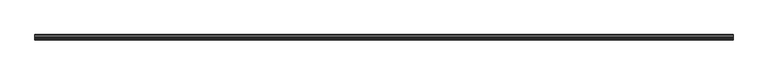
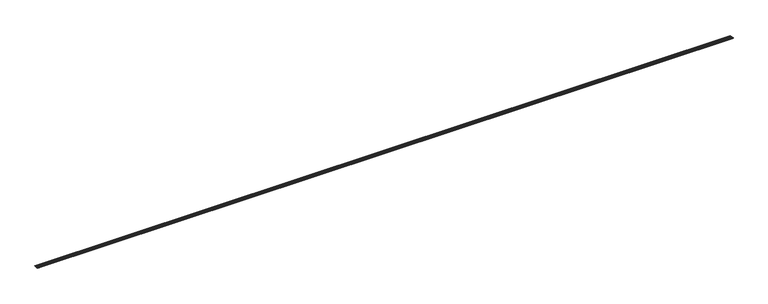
"""IFC4 building model written with IfcOpenShell, lengths in millimetres: proxy geometry, Weiku - Montante - Batente Titantec 02.3.02.040 : Weiku - Montante - Batente Titantec 02.3.02.040."""

from ifc_helpers import new_model, si_unit, point, frame, frame_2d, origin, place, context, project, spatial, polyline, circle_curve, trimmed, segment, composite_curve, outline, extrude, source, transform, mapped, element, save


def generic_models_5109ebb3(model_context):
    return source(origin(), model_context, "Body", "SweptSolid", [
        extrude(outline(composite_curve([segment(polyline([(-22.2, 5.4999971), (-17.2210117, 5.0020982)]), True, "CONTINUOUS"), segment(trimmed(circle_curve(frame_2d((-17.280714, 4.4050759)), 0.6), [point((-17.2210117, 5.0020982))], [point((-16.6912336, 4.2932147))], False, "CARTESIAN"), True, "CONTINUOUS"), segment(trimmed(circle_curve(frame_2d((-16.2, 4.1999971)), 0.5), [point((-16.6912336, 4.2932147))], [point((-16.0863636, 3.7130815))], True, "CARTESIAN"), True, "CONTINUOUS"), segment(trimmed(circle_curve(frame_2d((-15.95, 3.1287828)), 0.6), [point((-16.0863636, 3.7130815))], [point((-15.35, 3.1287828))], False, "CARTESIAN"), True, "CONTINUOUS"), segment(polyline([(-15.35, 3.1287828), (-15.35, 2.2999971), (-16.5, 2.2999971), (-16.5, 1.1999971), (-11.0, 1.1999971), (-11.0, 2.2999971), (-12.15, 2.2999971), (-12.15, 3.0999971)]), True, "CONTINUOUS"), segment(trimmed(circle_curve(frame_2d((-11.55, 3.0999971)), 0.6), [point((-12.15, 3.0999971))], [point((-11.55, 3.6999971))], False, "CARTESIAN"), True, "CONTINUOUS"), segment(polyline([(-11.55, 3.6999971), (-10.5, 3.6999971)]), True, "CONTINUOUS"), segment(trimmed(circle_curve(frame_2d((-10.5, 3.1999971)), 0.5), [point((-10.5, 3.6999971))], [point((-10.0, 3.1999971))], False, "CARTESIAN"), True, "CONTINUOUS"), segment(polyline([(-10.0, 3.1999971), (-10.0, 1.7999971)]), True, "CONTINUOUS"), segment(trimmed(circle_curve(frame_2d((-9.4, 1.7999971)), 0.6), [point((-10.0, 1.7999971))], [point((-9.4, 1.1999971))], True, "CARTESIAN"), True, "CONTINUOUS"), segment(polyline([(-9.4, 1.1999971), (-1.2, 1.1999971)]), True, "CONTINUOUS"), segment(trimmed(circle_curve(frame_2d((-1.2, -2.9e-06)), 1.2), [point((-1.2, 1.1999971))], [point((0.0, -2.9e-06))], False, "CARTESIAN"), True, "CONTINUOUS"), segment(polyline([(0.0, -2.9e-06), (-17.7, -2.9e-06), (-17.7, 4.0499971), (-22.2, 4.4999971)]), True, "CONTINUOUS"), segment(trimmed(circle_curve(frame_2d((-22.2, 4.9999971)), 0.5), [point((-22.2, 4.4999971))], [point((-22.2, 5.4999971))], False, "CARTESIAN"), True, "CONTINUOUS")], self_intersect=False)), frame((-1454.9, 0.0, 0.0), z_axis=(1.0, 0.0, 0.0), x_axis=(0.0, 1.0, 0.0)), (0.0, 0.0, 1.0), 2909.8),
    ])


if __name__ == "__main__":
    model = new_model("IFC4")
    model_context = context("Model", 3, world=origin())
    ifc_project = project(units=[si_unit("LENGTHUNIT", "METRE", prefix="MILLI")], contexts=[model_context])
    site = spatial("IfcSite", under=ifc_project)
    building = spatial("IfcBuilding", under=site)
    placement = place(None, origin())
    generic_models_shape = generic_models_5109ebb3(model_context)
    element("IfcBuildingElementProxy", 1, Name="Weiku - Montante - Batente Titantec 02.3.02.040 : Weiku - Montante - Batente Titantec 02.3.02.040", ObjectType="Weiku - Montante - Batente Titantec 02.3.02.040 : Weiku - Montante - Batente Titantec 02.3.02.040", at=placement, inside=building, context=model_context, shape_type="MappedRepresentation", body=[
        mapped(generic_models_shape, transform((0.0, 0.0, 0.0), x_axis=(1.0, 0.0, 0.0), y_axis=(0.0, 1.0, 0.0), z_axis=(0.0, 0.0, 1.0))),
    ])
    save(model, "model.ifc")
